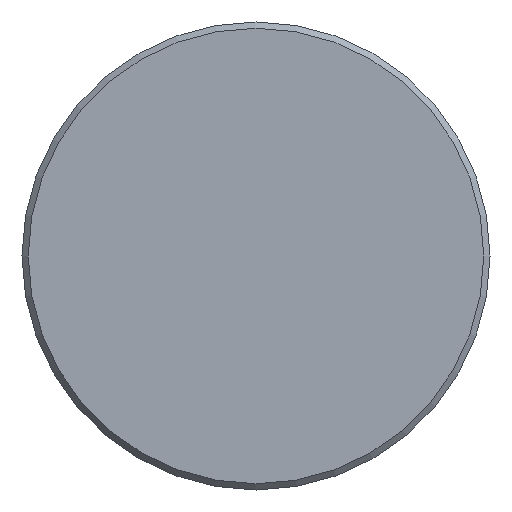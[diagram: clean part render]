
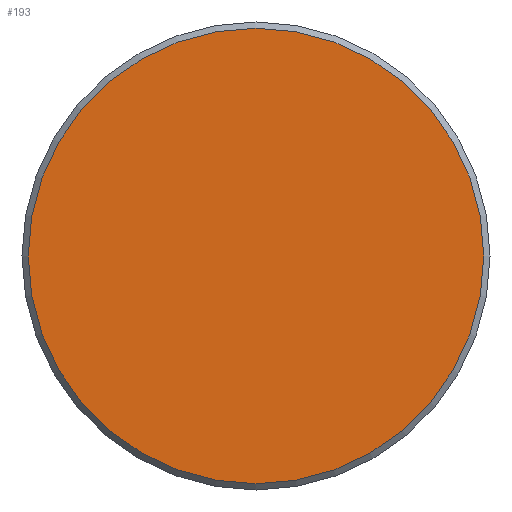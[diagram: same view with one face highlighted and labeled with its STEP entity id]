
A CAD part, front view. The second image highlights one B-rep face of the part: STEP entity #193.
In plain terms, the highlighted planar face has unit normal (0, -1, 0).
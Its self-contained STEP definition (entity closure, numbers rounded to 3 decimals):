
#193 = ADVANCED_FACE( '', ( #384 ), #385, .F. );
#384 = FACE_OUTER_BOUND( '', #584, .T. );
#385 = PLANE( '', #585 );
#584 = EDGE_LOOP( '', ( #879 ) );
#585 = AXIS2_PLACEMENT_3D( '', #880, #881, #882 );
#879 = ORIENTED_EDGE( '', *, *, #1156, .T. );
#880 = CARTESIAN_POINT( '', ( 29.2, 0., 0. ) );
#881 = DIRECTION( '', ( 0., 1., 0. ) );
#882 = DIRECTION( '', ( 0., 0., 1. ) );
#1156 = EDGE_CURVE( '', #1347, #1347, #1348, .T. );
#1347 = VERTEX_POINT( '', #1681 );
#1348 = CIRCLE( '', #1682, 29.2 );
#1681 = CARTESIAN_POINT( '', ( 0., 0., -29.2 ) );
#1682 = AXIS2_PLACEMENT_3D( '', #2066, #2067, #2068 );
#2066 = CARTESIAN_POINT( '', ( 0., 0., 0. ) );
#2067 = DIRECTION( '', ( 0., -1., 0. ) );
#2068 = DIRECTION( '', ( 0., 0., -1. ) );
